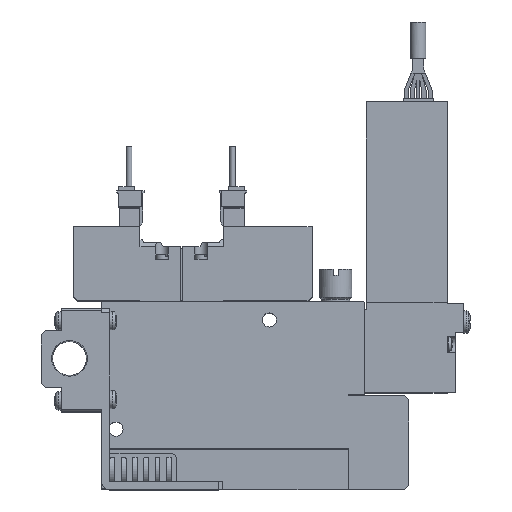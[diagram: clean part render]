
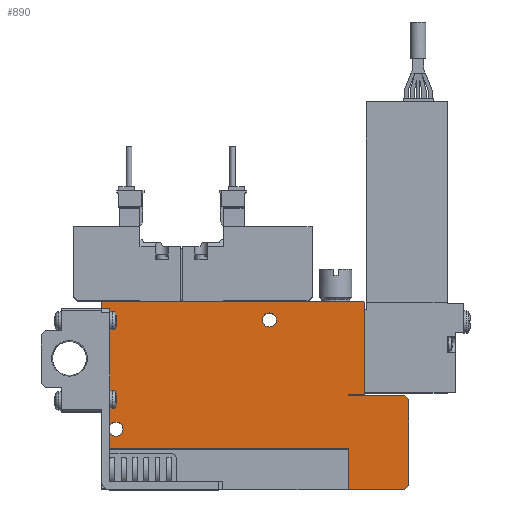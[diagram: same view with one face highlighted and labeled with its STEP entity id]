
A CAD part, top view. The second image highlights one B-rep face of the part: STEP entity #890.
In plain terms, the highlighted planar face has unit normal (0, 0, 1).
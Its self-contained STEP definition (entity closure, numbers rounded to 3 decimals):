
#890=ADVANCED_FACE('',(#2114,#2115,#2116),#2117,.F.);
#2114=FACE_OUTER_BOUND('',#3685,.T.);
#2115=FACE_BOUND('',#3686,.T.);
#2116=FACE_BOUND('',#3687,.T.);
#2117=PLANE('',#3688);
#3685=EDGE_LOOP('',(#8034,#8035,#8036,#8037,#8038,#8039,#8040,#8041,#8042,#8043,#8044,#8045,#8046,#8047));
#3686=EDGE_LOOP('',(#8048));
#3687=EDGE_LOOP('',(#8049));
#3688=AXIS2_PLACEMENT_3D('',#8050,#8051,#8052);
#8034=ORIENTED_EDGE('',*,*,#10988,.T.);
#8035=ORIENTED_EDGE('',*,*,#10964,.F.);
#8036=ORIENTED_EDGE('',*,*,#11067,.F.);
#8037=ORIENTED_EDGE('',*,*,#11137,.T.);
#8038=ORIENTED_EDGE('',*,*,#10870,.T.);
#8039=ORIENTED_EDGE('',*,*,#11132,.T.);
#8040=ORIENTED_EDGE('',*,*,#11089,.T.);
#8041=ORIENTED_EDGE('',*,*,#10935,.T.);
#8042=ORIENTED_EDGE('',*,*,#11061,.T.);
#8043=ORIENTED_EDGE('',*,*,#10978,.T.);
#8044=ORIENTED_EDGE('',*,*,#10975,.T.);
#8045=ORIENTED_EDGE('',*,*,#11018,.T.);
#8046=ORIENTED_EDGE('',*,*,#11138,.T.);
#8047=ORIENTED_EDGE('',*,*,#11058,.T.);
#8048=ORIENTED_EDGE('',*,*,#11023,.F.);
#8049=ORIENTED_EDGE('',*,*,#10835,.F.);
#8050=CARTESIAN_POINT('',(0.0,0.0,5.0));
#8051=DIRECTION('',(0.0,0.0,-1.0));
#8052=DIRECTION('',(0.0,-1.0,0.0));
#10835=EDGE_CURVE('',#13255,#13255,#13256,.T.);
#10870=EDGE_CURVE('',#13322,#13320,#13323,.T.);
#10935=EDGE_CURVE('',#13437,#13435,#13438,.T.);
#10964=EDGE_CURVE('',#13484,#13485,#13486,.T.);
#10975=EDGE_CURVE('',#13505,#13503,#13506,.T.);
#10978=EDGE_CURVE('',#13510,#13505,#13511,.T.);
#10988=EDGE_CURVE('',#13525,#13485,#13526,.T.);
#11018=EDGE_CURVE('',#13503,#13573,#13575,.T.);
#11023=EDGE_CURVE('',#13583,#13583,#13584,.T.);
#11058=EDGE_CURVE('',#13640,#13525,#13641,.T.);
#11061=EDGE_CURVE('',#13435,#13510,#13644,.T.);
#11067=EDGE_CURVE('',#13652,#13484,#13654,.T.);
#11089=EDGE_CURVE('',#13685,#13437,#13686,.T.);
#11132=EDGE_CURVE('',#13320,#13685,#13745,.T.);
#11137=EDGE_CURVE('',#13652,#13322,#13750,.T.);
#11138=EDGE_CURVE('',#13573,#13640,#13751,.T.);
#13255=VERTEX_POINT('',#17236);
#13256=CIRCLE('',#17237,1.75);
#13320=VERTEX_POINT('',#17355);
#13322=VERTEX_POINT('',#17358);
#13323=LINE('',#17359,#17360);
#13435=VERTEX_POINT('',#17596);
#13437=VERTEX_POINT('',#17599);
#13438=LINE('',#17600,#17601);
#13484=VERTEX_POINT('',#17686);
#13485=VERTEX_POINT('',#17687);
#13486=LINE('',#17688,#17689);
#13503=VERTEX_POINT('',#17715);
#13505=VERTEX_POINT('',#17718);
#13506=LINE('',#17719,#17720);
#13510=VERTEX_POINT('',#17726);
#13511=LINE('',#17727,#17728);
#13525=VERTEX_POINT('',#17751);
#13526=LINE('',#17752,#17753);
#13573=VERTEX_POINT('',#17835);
#13575=LINE('',#17838,#17839);
#13583=VERTEX_POINT('',#17850);
#13584=CIRCLE('',#17851,1.75);
#13640=VERTEX_POINT('',#17934);
#13641=LINE('',#17935,#17936);
#13644=LINE('',#17941,#17942);
#13652=VERTEX_POINT('',#17954);
#13654=LINE('',#17957,#17958);
#13685=VERTEX_POINT('',#18009);
#13686=LINE('',#18010,#18011);
#13745=LINE('',#18106,#18107);
#13750=LINE('',#18116,#18117);
#13751=LINE('',#18118,#18119);
#17236=CARTESIAN_POINT('',(43.25,42.0,5.0));
#17237=AXIS2_PLACEMENT_3D('',#21242,#21243,#21244);
#17355=CARTESIAN_POINT('',(76.0,1.0,5.0));
#17358=CARTESIAN_POINT('',(75.0,0.0,5.0));
#17359=CARTESIAN_POINT('',(75.0,0.0,5.0));
#17360=VECTOR('',#21301,1.0);
#17596=CARTESIAN_POINT('',(61.0,23.25,5.0));
#17599=CARTESIAN_POINT('',(75.0,23.25,5.0));
#17600=CARTESIAN_POINT('',(75.0,23.25,5.0));
#17601=VECTOR('',#21387,1.0);
#17686=CARTESIAN_POINT('',(61.1,10.1,5.0));
#17687=CARTESIAN_POINT('',(0.0,10.1,5.0));
#17688=CARTESIAN_POINT('',(61.1,10.1,5.0));
#17689=VECTOR('',#21426,1.0);
#17715=CARTESIAN_POINT('',(65.0,46.4,5.0));
#17718=CARTESIAN_POINT('',(65.0,23.5,5.0));
#17719=CARTESIAN_POINT('',(65.0,23.5,5.0));
#17720=VECTOR('',#21437,1.0);
#17726=CARTESIAN_POINT('',(61.0,23.5,5.0));
#17727=CARTESIAN_POINT('',(61.0,23.5,5.0));
#17728=VECTOR('',#21440,1.0);
#17751=CARTESIAN_POINT('',(0.0,46.4,5.0));
#17752=CARTESIAN_POINT('',(0.0,46.4,5.0));
#17753=VECTOR('',#21450,1.0);
#17835=CARTESIAN_POINT('',(64.8,46.6,5.0));
#17838=CARTESIAN_POINT('',(65.0,46.4,5.0));
#17839=VECTOR('',#21483,1.0);
#17850=CARTESIAN_POINT('',(5.25,15.0,5.0));
#17851=AXIS2_PLACEMENT_3D('',#21490,#21491,#21492);
#17934=CARTESIAN_POINT('',(0.2,46.6,5.0));
#17935=CARTESIAN_POINT('',(0.2,46.6,5.0));
#17936=VECTOR('',#21541,1.0);
#17941=CARTESIAN_POINT('',(61.0,23.25,5.0));
#17942=VECTOR('',#21544,1.0);
#17954=CARTESIAN_POINT('',(61.1,0.0,5.0));
#17957=CARTESIAN_POINT('',(61.1,0.0,5.0));
#17958=VECTOR('',#21550,1.0);
#18009=CARTESIAN_POINT('',(76.0,22.25,5.0));
#18010=CARTESIAN_POINT('',(76.0,22.25,5.0));
#18011=VECTOR('',#21574,1.0);
#18106=CARTESIAN_POINT('',(76.0,1.0,5.0));
#18107=VECTOR('',#21629,1.0);
#18116=CARTESIAN_POINT('',(0.0,0.0,5.0));
#18117=VECTOR('',#21634,1.0);
#18118=CARTESIAN_POINT('',(64.8,46.6,5.0));
#18119=VECTOR('',#21635,1.0);
#21242=CARTESIAN_POINT('',(41.5,42.0,5.0));
#21243=DIRECTION('',(0.0,0.0,1.0));
#21244=DIRECTION('',(1.0,0.0,0.0));
#21301=DIRECTION('',(0.707,0.707,0.0));
#21387=DIRECTION('',(-1.0,0.0,0.0));
#21426=DIRECTION('',(-1.0,0.0,0.0));
#21437=DIRECTION('',(0.0,1.0,0.0));
#21440=DIRECTION('',(1.0,0.,0.0));
#21450=DIRECTION('',(0.0,-1.0,0.0));
#21483=DIRECTION('',(-0.707,0.707,0.0));
#21490=CARTESIAN_POINT('',(3.5,15.0,5.0));
#21491=DIRECTION('',(0.0,0.0,1.0));
#21492=DIRECTION('',(1.0,0.0,0.0));
#21541=DIRECTION('',(-0.707,-0.707,0.0));
#21544=DIRECTION('',(0.0,1.0,0.0));
#21550=DIRECTION('',(0.0,1.0,0.0));
#21574=DIRECTION('',(-0.707,0.707,0.0));
#21629=DIRECTION('',(0.0,1.0,0.0));
#21634=DIRECTION('',(1.0,0.0,0.0));
#21635=DIRECTION('',(-1.0,0.0,0.0));
